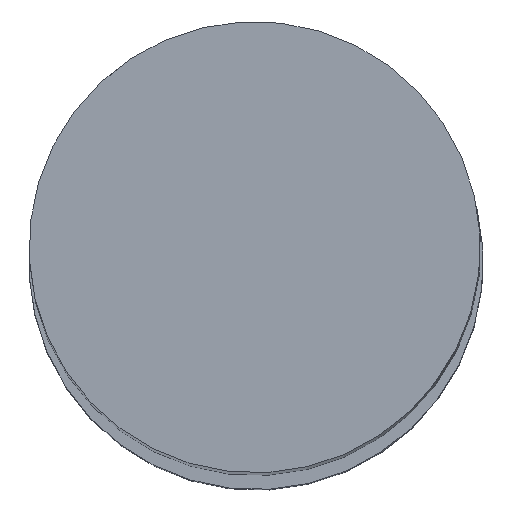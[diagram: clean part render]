
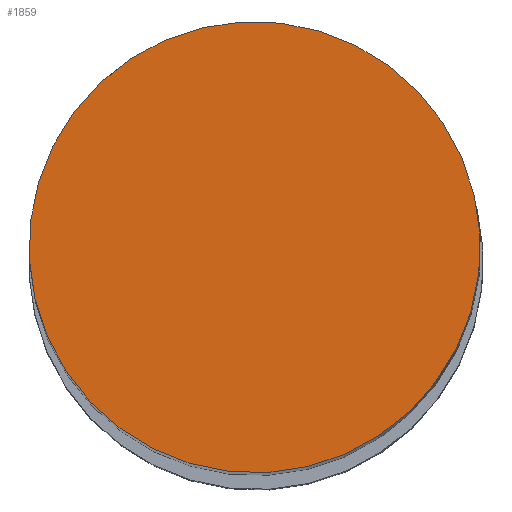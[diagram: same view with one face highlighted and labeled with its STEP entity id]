
A CAD part, top view. The second image highlights one B-rep face of the part: STEP entity #1859.
In plain terms, the highlighted planar face has unit normal (0, 0, 1).
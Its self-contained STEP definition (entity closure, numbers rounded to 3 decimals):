
#259 = EDGE_CURVE ( 'NONE', #3013, #2654, #1492, .T. ) ;
#338 = CARTESIAN_POINT ( 'NONE',  ( 7.383, -11.193, -303.044 ) ) ;
#573 = ORIENTED_EDGE ( 'NONE', *, *, #2566, .F. ) ;
#712 = ORIENTED_EDGE ( 'NONE', *, *, #259, .F. ) ;
#847 = AXIS2_PLACEMENT_3D ( 'NONE', #1529, #2722, #2023 ) ;
#891 = DIRECTION ( 'NONE',  ( 0., 0., 1. ) ) ;
#1164 = FACE_OUTER_BOUND ( 'NONE', #1673, .T. ) ;
#1338 = AXIS2_PLACEMENT_3D ( 'NONE', #1650, #2594, #3060 ) ;
#1492 = CIRCLE ( 'NONE', #1338, 13.4 ) ;
#1529 = CARTESIAN_POINT ( 'NONE',  ( 0.015, 0., -303.045 ) ) ;
#1626 = DIRECTION ( 'NONE',  ( -0.55, 0.835, 0. ) ) ;
#1650 = CARTESIAN_POINT ( 'NONE',  ( 0.015, 0., -303.045 ) ) ;
#1673 = EDGE_LOOP ( 'NONE', ( #712, #573 ) ) ;
#1808 = CIRCLE ( 'NONE', #847, 13.4 ) ;
#1859 = ADVANCED_FACE ( 'NONE', ( #1164 ), #3022, .T. ) ;
#2023 = DIRECTION ( 'NONE',  ( 0.55, -0.835, 0. ) ) ;
#2130 = CARTESIAN_POINT ( 'NONE',  ( -11.177, -7.368, -303.047 ) ) ;
#2290 = CARTESIAN_POINT ( 'NONE',  ( -7.352, 11.193, -303.046 ) ) ;
#2420 = AXIS2_PLACEMENT_3D ( 'NONE', #2130, #891, #1626 ) ;
#2566 = EDGE_CURVE ( 'NONE', #2654, #3013, #1808, .T. ) ;
#2594 = DIRECTION ( 'NONE',  ( 0., 0., -1. ) ) ;
#2654 = VERTEX_POINT ( 'NONE', #2290 ) ;
#2722 = DIRECTION ( 'NONE',  ( 0., 0., -1. ) ) ;
#3013 = VERTEX_POINT ( 'NONE', #338 ) ;
#3022 = PLANE ( 'NONE',  #2420 ) ;
#3060 = DIRECTION ( 'NONE',  ( 0.55, -0.835, 0. ) ) ;
